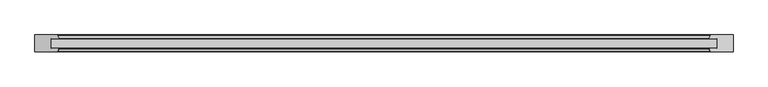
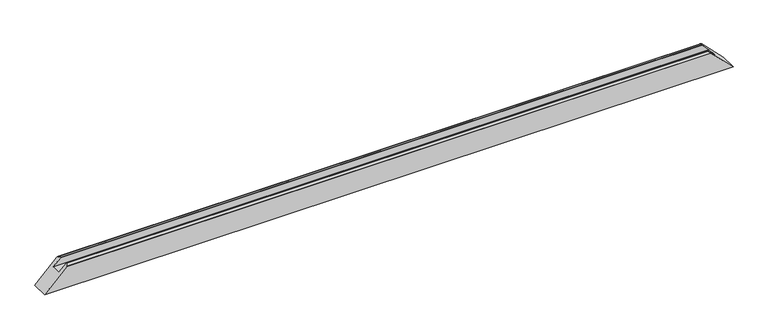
"""IFC4 building model written with IfcOpenShell, lengths in millimetres: proxy geometry, Weiku - Montante - Caixilho fixo : Weiku - Montante - Caixilho fixo."""

from ifc_helpers import new_model, si_unit, frame, origin, place, context, project, spatial, ellipse_curve, source, transform, mapped, element, save
from ifc_brep_helpers import plane_surface, cylinder_surface, advanced_brep


def generic_models_bd08e009(model_context):
    return source(origin(), model_context, "Body", "AdvancedBrep", [
        advanced_brep(
        [(-904.118227, 37.0070552, 66.881773), (-906.2000319, 44.7764571, 64.7999681), (-909.0978094, 47.0, 61.9021906), (-971.0, 47.0, 0.0), (-971.0, 0.0, 0.0), (-908.5773503, 0.0, 62.4226497), (-907.7113249, 0.5, 63.2886751), (-904.2679492, 6.4641016, 66.7320508), (-904.0, 7.4641016, 67.0), (-904.0, 8.8, 67.0), (-904.7, 9.5, 66.3), (-925.0, 9.5, 46.0), (-925.0, 36.0, 46.0), (-904.8909676, 36.0, 66.1090324), (906.2000319, 44.7764571, 64.7999681), (904.118227, 37.0070552, 66.881773), (904.8909676, 36.0, 66.1090324), (925.0, 36.0, 46.0), (925.0, 9.5, 46.0), (904.7, 9.5, 66.3), (904.0, 8.8, 67.0), (904.0, 7.4641016, 67.0), (904.2679492, 6.4641016, 66.7320508), (907.7113249, 0.5, 63.2886751), (908.5773503, 0.0, 62.4226497), (971.0, 0.0, 0.0), (971.0, 47.0, 0.0), (909.0978094, 47.0, 61.9021906)],
        [
            (0, 1),
            (1, 2, ellipse_curve(frame((-909.0978094, 44.0, 61.9021906), z_axis=(-0.7071067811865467, 0.0, 0.7071067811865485), x_axis=(-0.7071067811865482, 0.0, -0.7071067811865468)), 4.2426407, 3.0)),
            (2, 3),
            (3, 4),
            (4, 5),
            (5, 6, ellipse_curve(frame((-908.5773503, 1.0, 62.4226497), z_axis=(-0.7071067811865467, 0.0, 0.7071067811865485), x_axis=(-0.7071067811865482, 0.0, -0.7071067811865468)), 1.4142136, 1.0)),
            (6, 7),
            (7, 8, ellipse_curve(frame((-906.0, 7.4641016, 65.0), z_axis=(-0.7071067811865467, 0.0, 0.7071067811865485), x_axis=(-0.7071067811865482, 0.0, -0.7071067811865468)), 2.8284271, 2.0)),
            (8, 9),
            (9, 10, ellipse_curve(frame((-904.7, 8.8, 66.3), z_axis=(-0.7071067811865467, 0.0, 0.7071067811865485), x_axis=(-0.7071067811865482, 0.0, -0.7071067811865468)), 0.9899495, 0.7)),
            (10, 11),
            (11, 12),
            (12, 13),
            (13, 0, ellipse_curve(frame((-904.8909676, 36.8, 66.1090324), z_axis=(-0.7071067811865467, 0.0, 0.7071067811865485), x_axis=(-0.7071067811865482, 0.0, -0.7071067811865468)), 1.1313708, 0.8)),
            (14, 15),
            (15, 16, ellipse_curve(frame((904.8909676, 36.8, 66.1090324), z_axis=(0.7071067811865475, 0.0, 0.7071067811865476), x_axis=(-0.7071067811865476, 0.0, 0.7071067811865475)), 1.1313708, 0.8)),
            (16, 17),
            (17, 18),
            (18, 19),
            (19, 20, ellipse_curve(frame((904.7, 8.8, 66.3), z_axis=(0.7071067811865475, 0.0, 0.7071067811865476), x_axis=(-0.7071067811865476, 0.0, 0.7071067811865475)), 0.9899495, 0.7)),
            (20, 21),
            (21, 22, ellipse_curve(frame((906.0, 7.4641016, 65.0), z_axis=(0.7071067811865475, 0.0, 0.7071067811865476), x_axis=(-0.7071067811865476, 0.0, 0.7071067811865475)), 2.8284271, 2.0)),
            (22, 23),
            (23, 24, ellipse_curve(frame((908.5773503, 1.0, 62.4226497), z_axis=(0.7071067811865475, 0.0, 0.7071067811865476), x_axis=(-0.7071067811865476, 0.0, 0.7071067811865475)), 1.4142136, 1.0)),
            (24, 25),
            (25, 26),
            (26, 27),
            (27, 14, ellipse_curve(frame((909.0978094, 44.0, 61.9021906), z_axis=(0.7071067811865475, 0.0, 0.7071067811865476), x_axis=(-0.7071067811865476, 0.0, 0.7071067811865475)), 4.2426407, 3.0)),
            (0, 15),
            (14, 1),
            (27, 2),
            (26, 3),
            (25, 4),
            (24, 5),
            (11, 18),
            (17, 12),
            (16, 13),
            (23, 6),
            (22, 7),
            (21, 8),
            (20, 9),
            (19, 10),
        ],
        [
            plane_surface(frame((-1041.0, -15.0, -70.0), z_axis=(-0.7071067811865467, 0.0, 0.7071067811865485), x_axis=(0.0, 1.0, 0.0))),
            plane_surface(frame((901.0, -15.0, 70.0), z_axis=(0.7071067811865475, 0.0, 0.7071067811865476), x_axis=(0.0, 1.0, 0.0))),
            plane_surface(frame((-971.0, 37.0070552, 66.881773), z_axis=(0.0, 0.2588190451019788, 0.9659258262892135), x_axis=(1.0, 0.0, 0.0))),
            cylinder_surface(frame((-971.0, 44.0, 61.9021906), z_axis=(-1.0, 0.0, 0.0), x_axis=(0.0, 1.0, 0.0)), 3.0),
            plane_surface(frame((-971.0, 47.0, 61.9021906), z_axis=(0.0, 1.0, 0.0), x_axis=(1.0, 0.0, 0.0))),
            plane_surface(frame((-971.0, 47.0, 0.0), z_axis=(0.0, 0.0, -1.0), x_axis=(1.0, 0.0, 0.0))),
            plane_surface(frame((-971.0, 0.0, 0.0), z_axis=(0.0, -1.0, 0.0), x_axis=(1.0, 0.0, 0.0))),
            plane_surface(frame((-971.0, 9.5, 46.0), z_axis=(0.0, 0.0, 1.0), x_axis=(1.0, 0.0, 0.0))),
            plane_surface(frame((-971.0, 36.0, 46.0), z_axis=(0.0, -1.0, 0.0), x_axis=(1.0, 0.0, 0.0))),
            cylinder_surface(frame((-971.0, 36.8, 66.1090324), z_axis=(-1.0, 0.0, 0.0), x_axis=(0.0, 1.0, 0.0)), 0.8),
            cylinder_surface(frame((-971.0, 1.0, 62.4226497), z_axis=(-1.0, 0.0, 0.0), x_axis=(0.0, 1.0, 0.0)), 1.0),
            plane_surface(frame((-971.0, 0.5, 63.2886751), z_axis=(0.0, -0.49999999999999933, 0.866025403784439), x_axis=(1.0, 0.0, 0.0))),
            cylinder_surface(frame((-971.0, 7.4641016, 65.0), z_axis=(-1.0, 0.0, 0.0), x_axis=(0.0, 1.0, 0.0)), 2.0),
            plane_surface(frame((-971.0, 7.4641016, 67.0), z_axis=(0.0, 0.0, 1.0), x_axis=(1.0, 0.0, 0.0))),
            cylinder_surface(frame((-971.0, 8.8, 66.3), z_axis=(-1.0, 0.0, 0.0), x_axis=(0.0, 1.0, 0.0)), 0.7),
            plane_surface(frame((-971.0, 9.5, 66.3), z_axis=(0.0, 1.0, 0.0), x_axis=(1.0, 0.0, 0.0))),
        ],
        [
            (0, [[1, 2, 3, 4, 5, 6, 7, 8, 9, 10, 11, 12, 13, 14]]),
            (1, [[15, 16, 17, 18, 19, 20, 21, 22, 23, 24, 25, 26, 27, 28]]),
            (2, [[-1, 29, -15, 30]]),
            (3, [[-2, -30, -28, 31]]),
            (4, [[32, -3, -31, -27]]),
            (5, [[-32, -26, 33, -4]]),
            (6, [[-33, -25, 34, -5]]),
            (7, [[-12, 35, -18, 36]]),
            (8, [[-13, -36, -17, 37]]),
            (9, [[-14, -37, -16, -29]]),
            (10, [[-6, -34, -24, 38]]),
            (11, [[-7, -38, -23, 39]]),
            (12, [[-8, -39, -22, 40]]),
            (13, [[-9, -40, -21, 41]]),
            (14, [[-10, -41, -20, 42]]),
            (15, [[-11, -42, -19, -35]]),
        ],
    ),
    ])


if __name__ == "__main__":
    model = new_model("IFC4")
    model_context = context("Model", 3, world=origin())
    ifc_project = project(units=[si_unit("LENGTHUNIT", "METRE", prefix="MILLI")], contexts=[model_context])
    site = spatial("IfcSite", under=ifc_project)
    building = spatial("IfcBuilding", under=site)
    placement = place(None, origin())
    generic_models_shape = generic_models_bd08e009(model_context)
    element("IfcBuildingElementProxy", 1, Name="Weiku - Montante - Caixilho fixo : Weiku - Montante - Caixilho fixo", ObjectType="Weiku - Montante - Caixilho fixo : Weiku - Montante - Caixilho fixo", at=placement, inside=building, context=model_context, shape_type="MappedRepresentation", body=[
        mapped(generic_models_shape, transform((0.0, 0.0, 0.0), x_axis=(1.0, 0.0, 0.0), y_axis=(0.0, 1.0, 0.0), z_axis=(0.0, 0.0, 1.0))),
    ])
    save(model, "model.ifc")
